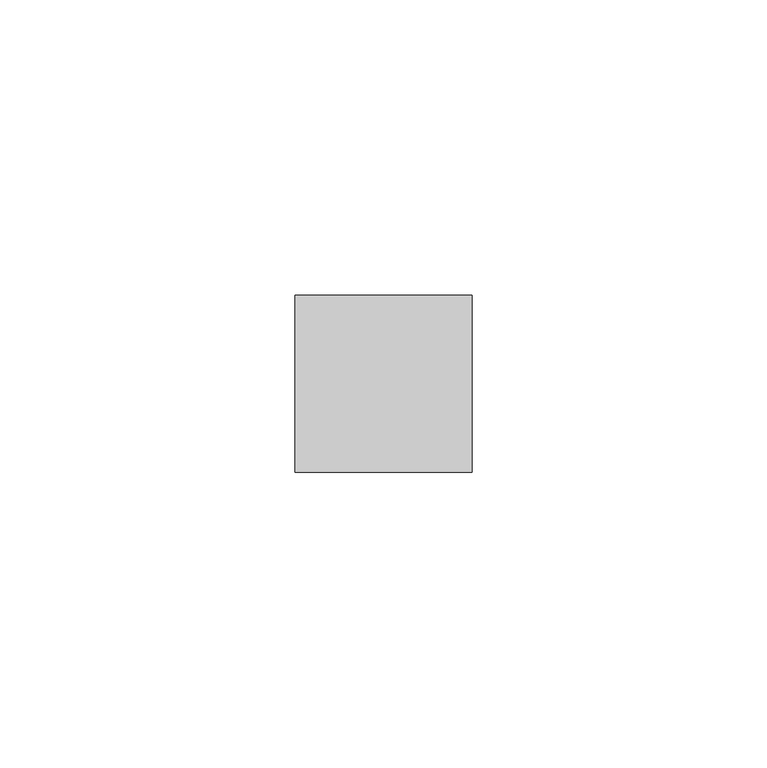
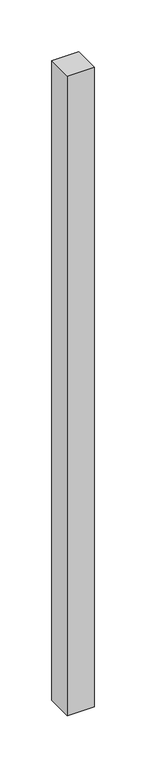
"""IFC4 building model written with IfcOpenShell, lengths in millimetres: member geometry, 矩形竖梃 : 30mm 正方形."""

from ifc_helpers import new_model, si_unit, frame, origin, place, context, project, spatial, polyline, outline, extrude, source, transform, mapped, element, save


def member_97db42b5(model_context):
    return source(origin(), model_context, "Body", "SweptSolid", [
        extrude(outline(polyline([(15.0, 15.0), (15.0, -15.0), (-15.0, -15.0), (-15.0, 15.0), (15.0, 15.0)])), frame((0.0, 0.0, -755.0), z_axis=(0.0, 0.0, 1.0), x_axis=(1.0, 0.0, 0.0)), (0.0, 0.0, 1.0), 755.0),
    ])


if __name__ == "__main__":
    model = new_model("IFC4")
    model_context = context("Model", 3, world=origin())
    ifc_project = project(units=[si_unit("LENGTHUNIT", "METRE", prefix="MILLI")], contexts=[model_context])
    site = spatial("IfcSite", under=ifc_project)
    building = spatial("IfcBuilding", under=site)
    placement = place(None, origin())
    member_shape = member_97db42b5(model_context)
    element("IfcMember", 1, ObjectType="矩形竖梃 : 30mm 正方形", at=placement, inside=building, context=model_context, shape_type="MappedRepresentation", body=[
        mapped(member_shape, transform((0.0, 0.0, 0.0), x_axis=(1.0, 0.0, 0.0), y_axis=(0.0, 1.0, 0.0), z_axis=(0.0, 0.0, 1.0))),
    ])
    save(model, "model.ifc")
